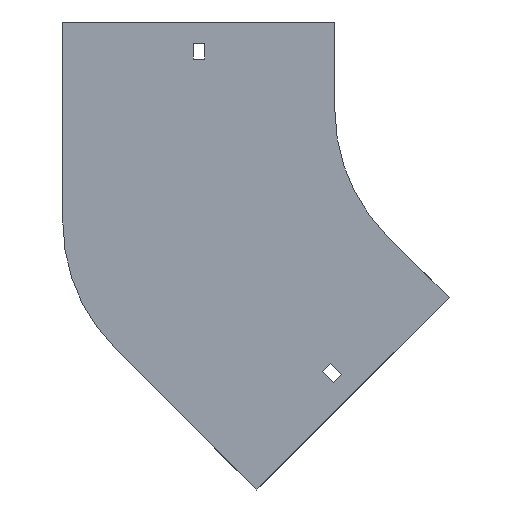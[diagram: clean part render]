
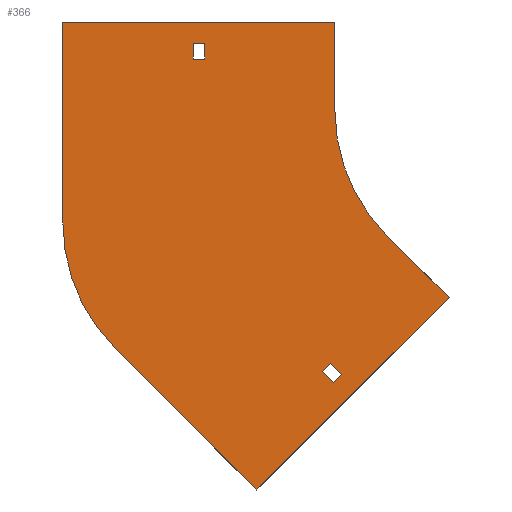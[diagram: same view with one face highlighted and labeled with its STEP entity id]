
A CAD part, front view. The second image highlights one B-rep face of the part: STEP entity #366.
In plain terms, the highlighted planar face has unit normal (0, -1, 0).
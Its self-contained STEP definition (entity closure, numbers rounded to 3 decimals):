
#28 = CARTESIAN_POINT ( 'NONE',  ( -102.354, 0., -143.366 ) ) ;
#32 = CARTESIAN_POINT ( 'NONE',  ( 0., 0., 0. ) ) ;
#36 = DIRECTION ( 'NONE',  ( 0., 0., 1. ) ) ;
#69 = VECTOR ( 'NONE', #465, 1000. ) ;
#98 = CARTESIAN_POINT ( 'NONE',  ( -254., 0., 50. ) ) ;
#123 = DIRECTION ( 'NONE',  ( 0., -1., 0. ) ) ;
#143 = EDGE_CURVE ( 'NONE', #224, #1060, #735, .T. ) ;
#163 = VERTEX_POINT ( 'NONE', #1778 ) ;
#190 = CARTESIAN_POINT ( 'NONE',  ( -180.25, 0., 29. ) ) ;
#201 = CARTESIAN_POINT ( 'NONE',  ( -100., 0., 50. ) ) ;
#224 = VERTEX_POINT ( 'NONE', #1352 ) ;
#226 = EDGE_CURVE ( 'NONE', #1060, #1771, #576, .T. ) ;
#235 = CARTESIAN_POINT ( 'NONE',  ( -106.95, 0., -147.962 ) ) ;
#237 = VECTOR ( 'NONE', #36, 1000. ) ;
#242 = EDGE_CURVE ( 'NONE', #1787, #1412, #713, .T. ) ;
#243 = EDGE_CURVE ( 'NONE', #1304, #286, #1525, .T. ) ;
#286 = VERTEX_POINT ( 'NONE', #190 ) ;
#295 = ORIENTED_EDGE ( 'NONE', *, *, #1892, .F. ) ;
#298 = CARTESIAN_POINT ( 'NONE',  ( 0., 0., 0. ) ) ;
#305 = AXIS2_PLACEMENT_3D ( 'NONE', #298, #123, #1016 ) ;
#318 = DIRECTION ( 'NONE',  ( -0.707, 0., -0.707 ) ) ;
#326 = VERTEX_POINT ( 'NONE', #1511 ) ;
#334 = LINE ( 'NONE', #1657, #906 ) ;
#340 = VERTEX_POINT ( 'NONE', #787 ) ;
#344 = LINE ( 'NONE', #961, #1240 ) ;
#351 = LINE ( 'NONE', #201, #774 ) ;
#363 = ORIENTED_EDGE ( 'NONE', *, *, #1447, .F. ) ;
#366 = ADVANCED_FACE ( 'NONE', ( #1050, #921, #1555 ), #1817, .T. ) ;
#373 = CARTESIAN_POINT ( 'NONE',  ( -154., 0., -63.789 ) ) ;
#377 = EDGE_CURVE ( 'NONE', #844, #224, #351, .T. ) ;
#386 = CARTESIAN_POINT ( 'NONE',  ( -254., 0., 50. ) ) ;
#387 = CARTESIAN_POINT ( 'NONE',  ( -173.75, 0., 29. ) ) ;
#412 = ORIENTED_EDGE ( 'NONE', *, *, #436, .T. ) ;
#436 = EDGE_CURVE ( 'NONE', #1450, #1638, #1543, .T. ) ;
#460 = CARTESIAN_POINT ( 'NONE',  ( -180.25, 0., 29. ) ) ;
#465 = DIRECTION ( 'NONE',  ( 0.707, 0., 0.707 ) ) ;
#469 = ORIENTED_EDGE ( 'NONE', *, *, #663, .F. ) ;
#503 = ORIENTED_EDGE ( 'NONE', *, *, #377, .F. ) ;
#522 = DIRECTION ( 'NONE',  ( -0.707, 0., -0.707 ) ) ;
#530 = LINE ( 'NONE', #235, #559 ) ;
#559 = VECTOR ( 'NONE', #522, 1000. ) ;
#563 = CARTESIAN_POINT ( 'NONE',  ( -35.355, 0., -106.066 ) ) ;
#576 = LINE ( 'NONE', #1951, #836 ) ;
#602 = DIRECTION ( 'NONE',  ( 0., 0., -1. ) ) ;
#614 = DIRECTION ( 'NONE',  ( 0., 0., 1. ) ) ;
#631 = ORIENTED_EDGE ( 'NONE', *, *, #823, .F. ) ;
#639 = EDGE_CURVE ( 'NONE', #340, #715, #1755, .T. ) ;
#651 = VECTOR ( 'NONE', #1305, 1000. ) ;
#663 = EDGE_CURVE ( 'NONE', #326, #163, #1874, .T. ) ;
#677 = CARTESIAN_POINT ( 'NONE',  ( -70.711, 0., -70.711 ) ) ;
#679 = ORIENTED_EDGE ( 'NONE', *, *, #1885, .F. ) ;
#705 = LINE ( 'NONE', #387, #651 ) ;
#706 = DIRECTION ( 'NONE',  ( 0.707, 0., -0.707 ) ) ;
#713 = LINE ( 'NONE', #1315, #1437 ) ;
#715 = VERTEX_POINT ( 'NONE', #1813 ) ;
#717 = CIRCLE ( 'NONE', #821, 100. ) ;
#735 = CIRCLE ( 'NONE', #305, 100. ) ;
#751 = CARTESIAN_POINT ( 'NONE',  ( -173.75, 0., 29. ) ) ;
#762 = VECTOR ( 'NONE', #1276, 1000. ) ;
#774 = VECTOR ( 'NONE', #602, 1000. ) ;
#781 = LINE ( 'NONE', #460, #237 ) ;
#782 = CARTESIAN_POINT ( 'NONE',  ( -100., 0., 50. ) ) ;
#787 = CARTESIAN_POINT ( 'NONE',  ( -106.95, 0., -147.962 ) ) ;
#810 = DIRECTION ( 'NONE',  ( 0., 1., 0. ) ) ;
#813 = ORIENTED_EDGE ( 'NONE', *, *, #243, .T. ) ;
#821 = AXIS2_PLACEMENT_3D ( 'NONE', #373, #810, #959 ) ;
#823 = EDGE_CURVE ( 'NONE', #1771, #954, #344, .T. ) ;
#824 = CARTESIAN_POINT ( 'NONE',  ( -180.25, 0., 38. ) ) ;
#836 = VECTOR ( 'NONE', #1005, 1000. ) ;
#837 = EDGE_LOOP ( 'NONE', ( #295, #1714, #1641, #469 ) ) ;
#844 = VERTEX_POINT ( 'NONE', #782 ) ;
#847 = LINE ( 'NONE', #98, #1136 ) ;
#850 = CARTESIAN_POINT ( 'NONE',  ( -254., 0., -63.789 ) ) ;
#854 = AXIS2_PLACEMENT_3D ( 'NONE', #32, #1340, #1693 ) ;
#871 = CARTESIAN_POINT ( 'NONE',  ( -173.75, 0., 38. ) ) ;
#883 = DIRECTION ( 'NONE',  ( -0.707, 0., 0.707 ) ) ;
#906 = VECTOR ( 'NONE', #883, 1000. ) ;
#919 = ORIENTED_EDGE ( 'NONE', *, *, #970, .T. ) ;
#921 = FACE_OUTER_BOUND ( 'NONE', #1026, .T. ) ;
#942 = EDGE_CURVE ( 'NONE', #1412, #844, #847, .T. ) ;
#954 = VERTEX_POINT ( 'NONE', #1290 ) ;
#959 = DIRECTION ( 'NONE',  ( 0., 0., 1. ) ) ;
#961 = CARTESIAN_POINT ( 'NONE',  ( -35.355, 0., -106.066 ) ) ;
#970 = EDGE_CURVE ( 'NONE', #1638, #1304, #705, .T. ) ;
#993 = VECTOR ( 'NONE', #1381, 1000. ) ;
#1000 = CARTESIAN_POINT ( 'NONE',  ( -106.95, 0., -147.962 ) ) ;
#1005 = DIRECTION ( 'NONE',  ( 0.707, 0., -0.707 ) ) ;
#1016 = DIRECTION ( 'NONE',  ( 0., 0., -1. ) ) ;
#1026 = EDGE_LOOP ( 'NONE', ( #1214, #1625, #363, #679, #631, #1051, #1225, #503 ) ) ;
#1050 = FACE_BOUND ( 'NONE', #1055, .T. ) ;
#1051 = ORIENTED_EDGE ( 'NONE', *, *, #226, .F. ) ;
#1055 = EDGE_LOOP ( 'NONE', ( #1572, #412, #919, #813 ) ) ;
#1060 = VERTEX_POINT ( 'NONE', #677 ) ;
#1069 = VERTEX_POINT ( 'NONE', #1274 ) ;
#1128 = DIRECTION ( 'NONE',  ( 1., 0., 0. ) ) ;
#1136 = VECTOR ( 'NONE', #1128, 1000. ) ;
#1214 = ORIENTED_EDGE ( 'NONE', *, *, #942, .F. ) ;
#1225 = ORIENTED_EDGE ( 'NONE', *, *, #143, .F. ) ;
#1240 = VECTOR ( 'NONE', #318, 1000. ) ;
#1274 = CARTESIAN_POINT ( 'NONE',  ( -224.711, 0., -134.5 ) ) ;
#1276 = DIRECTION ( 'NONE',  ( -0.707, 0., 0.707 ) ) ;
#1290 = CARTESIAN_POINT ( 'NONE',  ( -144.25, 0., -214.96 ) ) ;
#1304 = VERTEX_POINT ( 'NONE', #751 ) ;
#1305 = DIRECTION ( 'NONE',  ( 0., 0., -1. ) ) ;
#1315 = CARTESIAN_POINT ( 'NONE',  ( -254., 0., -63.789 ) ) ;
#1321 = EDGE_CURVE ( 'NONE', #286, #1450, #781, .T. ) ;
#1340 = DIRECTION ( 'NONE',  ( 0., -1., 0. ) ) ;
#1352 = CARTESIAN_POINT ( 'NONE',  ( -100., 0., 0. ) ) ;
#1362 = LINE ( 'NONE', #1377, #69 ) ;
#1374 = VECTOR ( 'NONE', #1834, 1000. ) ;
#1377 = CARTESIAN_POINT ( 'NONE',  ( -100.586, 0., -154.326 ) ) ;
#1381 = DIRECTION ( 'NONE',  ( -1., 0., 0. ) ) ;
#1391 = CARTESIAN_POINT ( 'NONE',  ( -180.25, 0., 29. ) ) ;
#1392 = CARTESIAN_POINT ( 'NONE',  ( -180.25, 0., 38. ) ) ;
#1412 = VERTEX_POINT ( 'NONE', #386 ) ;
#1437 = VECTOR ( 'NONE', #614, 1000. ) ;
#1447 = EDGE_CURVE ( 'NONE', #1069, #1787, #717, .T. ) ;
#1450 = VERTEX_POINT ( 'NONE', #824 ) ;
#1452 = VECTOR ( 'NONE', #706, 1000. ) ;
#1464 = EDGE_CURVE ( 'NONE', #163, #340, #530, .T. ) ;
#1511 = CARTESIAN_POINT ( 'NONE',  ( -95.99, 0., -149.73 ) ) ;
#1525 = LINE ( 'NONE', #1391, #993 ) ;
#1543 = LINE ( 'NONE', #1392, #1374 ) ;
#1555 = FACE_BOUND ( 'NONE', #837, .T. ) ;
#1572 = ORIENTED_EDGE ( 'NONE', *, *, #1321, .T. ) ;
#1625 = ORIENTED_EDGE ( 'NONE', *, *, #242, .F. ) ;
#1638 = VERTEX_POINT ( 'NONE', #871 ) ;
#1641 = ORIENTED_EDGE ( 'NONE', *, *, #1464, .F. ) ;
#1657 = CARTESIAN_POINT ( 'NONE',  ( -144.25, 0., -214.96 ) ) ;
#1693 = DIRECTION ( 'NONE',  ( 0., 0., -1. ) ) ;
#1714 = ORIENTED_EDGE ( 'NONE', *, *, #639, .F. ) ;
#1755 = LINE ( 'NONE', #1000, #1452 ) ;
#1771 = VERTEX_POINT ( 'NONE', #563 ) ;
#1778 = CARTESIAN_POINT ( 'NONE',  ( -102.354, 0., -143.366 ) ) ;
#1787 = VERTEX_POINT ( 'NONE', #850 ) ;
#1813 = CARTESIAN_POINT ( 'NONE',  ( -100.586, 0., -154.326 ) ) ;
#1817 = PLANE ( 'NONE',  #854 ) ;
#1834 = DIRECTION ( 'NONE',  ( 1., 0., 0. ) ) ;
#1874 = LINE ( 'NONE', #28, #762 ) ;
#1885 = EDGE_CURVE ( 'NONE', #954, #1069, #334, .T. ) ;
#1892 = EDGE_CURVE ( 'NONE', #715, #326, #1362, .T. ) ;
#1951 = CARTESIAN_POINT ( 'NONE',  ( -70.711, 0., -70.711 ) ) ;
